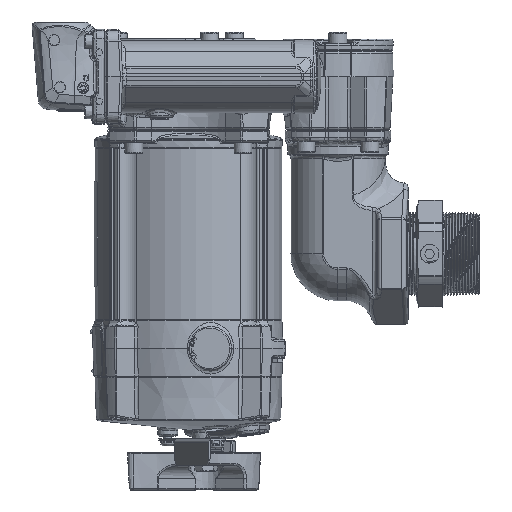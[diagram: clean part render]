
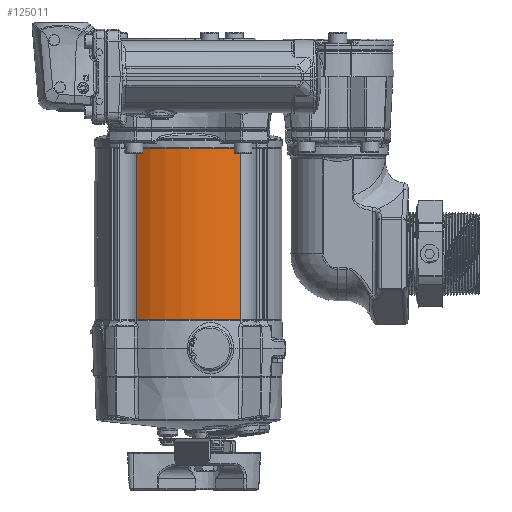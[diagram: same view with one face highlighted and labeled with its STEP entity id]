
A CAD part, left-side view. The second image highlights one B-rep face of the part: STEP entity #125011.
In plain terms, the highlighted cylindrical face has radius 67.691 mm (diameter 135.382 mm), a partial arc.
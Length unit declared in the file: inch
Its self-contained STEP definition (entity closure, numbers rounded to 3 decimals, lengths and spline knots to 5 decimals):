
#7407=CYLINDRICAL_SURFACE('',#136835,2.665);
#14669=FACE_OUTER_BOUND('',#22251,.T.);
#22251=EDGE_LOOP('',(#108803,#108804,#108805,#108806));
#29218=CIRCLE('',#136751,2.665);
#29272=CIRCLE('',#136813,2.665);
#39847=LINE('',#379830,#45364);
#39848=LINE('',#379832,#45365);
#45364=VECTOR('',#165503,0.3937);
#45365=VECTOR('',#165506,0.3937);
#56168=VERTEX_POINT('',#379681);
#56169=VERTEX_POINT('',#379683);
#56214=VERTEX_POINT('',#379789);
#56215=VERTEX_POINT('',#379791);
#73793=EDGE_CURVE('',#56169,#56168,#29218,.T.);
#73847=EDGE_CURVE('',#56215,#56214,#29272,.T.);
#73867=EDGE_CURVE('',#56215,#56168,#39847,.T.);
#73868=EDGE_CURVE('',#56214,#56169,#39848,.T.);
#108803=ORIENTED_EDGE('',*,*,#73847,.T.);
#108804=ORIENTED_EDGE('',*,*,#73868,.T.);
#108805=ORIENTED_EDGE('',*,*,#73793,.T.);
#108806=ORIENTED_EDGE('',*,*,#73867,.F.);
#125011=ADVANCED_FACE('',(#14669),#7407,.T.);
#136751=AXIS2_PLACEMENT_3D('',#379684,#165332,#165333);
#136813=AXIS2_PLACEMENT_3D('',#379792,#165456,#165457);
#136835=AXIS2_PLACEMENT_3D('',#379831,#165504,#165505);
#165332=DIRECTION('center_axis',(0.,0.,
1.));
#165333=DIRECTION('ref_axis',(0.,1.,0.));
#165456=DIRECTION('center_axis',(0.,0.,
-1.));
#165457=DIRECTION('ref_axis',(0.,1.,0.));
#165503=DIRECTION('',(0.,0.,-1.));
#165504=DIRECTION('center_axis',(0.,0.,
-1.));
#165505=DIRECTION('ref_axis',(0.,1.,0.));
#165506=DIRECTION('',(0.,0.,-1.));
#379681=CARTESIAN_POINT('',(-2.21431,-1.48293,-6.9035));
#379683=CARTESIAN_POINT('',(-2.21431,1.48293,-6.9035));
#379684=CARTESIAN_POINT('Origin',(0.,0.,
-6.9035));
#379789=CARTESIAN_POINT('',(-2.21431,1.48293,-2.0285));
#379791=CARTESIAN_POINT('',(-2.21431,-1.48293,-2.0285));
#379792=CARTESIAN_POINT('Origin',(0.,0.,
-2.0285));
#379830=CARTESIAN_POINT('',(-2.21431,-1.48293,-2.0285));
#379831=CARTESIAN_POINT('Origin',(0.,0.,
-2.0285));
#379832=CARTESIAN_POINT('',(-2.21431,1.48293,-2.0285));
